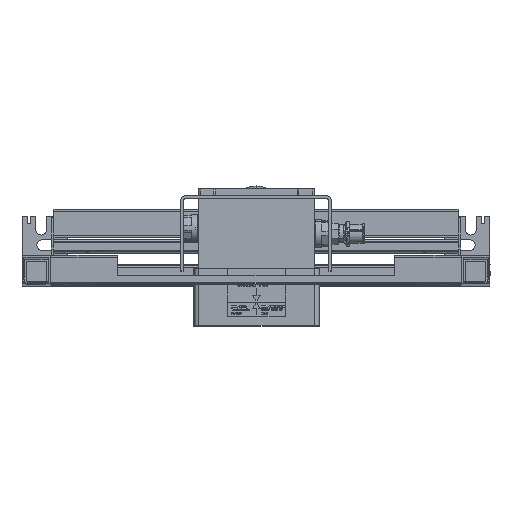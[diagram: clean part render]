
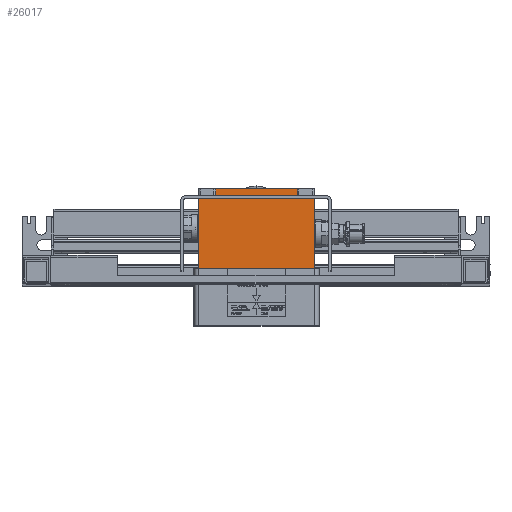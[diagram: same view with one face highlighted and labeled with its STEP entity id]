
A CAD part, top view. The second image highlights one B-rep face of the part: STEP entity #26017.
In plain terms, the highlighted free-form (B-spline) face has degree [1, 1] with [2, 2] control points.
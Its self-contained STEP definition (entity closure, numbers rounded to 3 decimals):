
#26017=ADVANCED_FACE('',(#69599),#69600,.T.);
#53133=VERTEX_POINT('',#97621);
#53139=VERTEX_POINT('',#97627);
#53141=EDGE_CURVE('',#53139,#53133,#97629,.T.);
#53195=VERTEX_POINT('',#97683);
#53205=VERTEX_POINT('',#97693);
#53209=EDGE_CURVE('',#53205,#53195,#97697,.T.);
#53211=VERTEX_POINT('',#97699);
#53213=VERTEX_POINT('',#97701);
#53215=EDGE_CURVE('',#53211,#53213,#97703,.T.);
#53217=EDGE_CURVE('',#53213,#53139,#97705,.T.);
#53219=EDGE_CURVE('',#53133,#53195,#97707,.T.);
#53221=VERTEX_POINT('',#97709);
#53223=EDGE_CURVE('',#53221,#53205,#97711,.T.);
#53225=VERTEX_POINT('',#97713);
#53227=EDGE_CURVE('',#53221,#53225,#97715,.T.);
#53229=EDGE_CURVE('',#53211,#53225,#97717,.T.);
#69599=FACE_OUTER_BOUND('',#131823,.T.);
#69600=B_SPLINE_SURFACE_WITH_KNOTS('',1,1,((#131824,#131825),(#131826,#131827)),.UNSPECIFIED.,.F.,.F.,.F.,(2,2),(2,2),(0.,1.),(0.,1.),.UNSPECIFIED.);
#97621=CARTESIAN_POINT('',(-60.,13.85,610.5));
#97627=CARTESIAN_POINT('',(-42.,13.85,610.5));
#97629=LINE('',#185763,#185764);
#97683=CARTESIAN_POINT('',(-60.,-62.65,610.5));
#97693=CARTESIAN_POINT('',(61.,-62.65,610.5));
#97697=LINE('',#185865,#185866);
#97699=CARTESIAN_POINT('',(43.,20.85,610.5));
#97701=CARTESIAN_POINT('',(-42.,20.85,610.5));
#97703=LINE('',#185873,#185874);
#97705=LINE('',#185877,#185878);
#97707=LINE('',#185881,#185882);
#97709=CARTESIAN_POINT('',(61.,13.85,610.5));
#97711=LINE('',#185887,#185888);
#97713=CARTESIAN_POINT('',(43.,13.85,610.5));
#97715=LINE('',#185893,#185894);
#97717=LINE('',#185897,#185898);
#131823=EDGE_LOOP('',(#216404,#216405,#216406,#216407,#216408,#216409,#216410,#216411));
#131824=CARTESIAN_POINT('',(61.001,20.851,610.5));
#131825=CARTESIAN_POINT('',(61.001,-62.651,610.5));
#131826=CARTESIAN_POINT('',(-60.001,20.851,610.5));
#131827=CARTESIAN_POINT('',(-60.001,-62.651,610.5));
#185763=CARTESIAN_POINT('',(-42.,13.85,610.5));
#185764=VECTOR('',#230327,1.0);
#185865=CARTESIAN_POINT('',(61.,-62.65,610.5));
#185866=VECTOR('',#230364,1.0);
#185873=CARTESIAN_POINT('',(43.,20.85,610.5));
#185874=VECTOR('',#230365,1.0);
#185877=CARTESIAN_POINT('',(-42.,20.85,610.5));
#185878=VECTOR('',#230366,1.0);
#185881=CARTESIAN_POINT('',(-60.,13.85,610.5));
#185882=VECTOR('',#230367,1.0);
#185887=CARTESIAN_POINT('',(61.,13.85,610.5));
#185888=VECTOR('',#230368,1.0);
#185893=CARTESIAN_POINT('',(61.,13.85,610.5));
#185894=VECTOR('',#230369,1.0);
#185897=CARTESIAN_POINT('',(43.,20.85,610.5));
#185898=VECTOR('',#230370,1.0);
#216404=ORIENTED_EDGE('',*,*,#53215,.T.);
#216405=ORIENTED_EDGE('',*,*,#53217,.T.);
#216406=ORIENTED_EDGE('',*,*,#53141,.T.);
#216407=ORIENTED_EDGE('',*,*,#53219,.T.);
#216408=ORIENTED_EDGE('',*,*,#53209,.F.);
#216409=ORIENTED_EDGE('',*,*,#53223,.F.);
#216410=ORIENTED_EDGE('',*,*,#53227,.T.);
#216411=ORIENTED_EDGE('',*,*,#53229,.F.);
#230327=DIRECTION('',(-1.0,0.,0.0));
#230364=DIRECTION('',(-1.0,0.,0.0));
#230365=DIRECTION('',(-1.0,0.,0.0));
#230366=DIRECTION('',(0.,-1.0,0.0));
#230367=DIRECTION('',(0.,-1.0,0.));
#230368=DIRECTION('',(0.,-1.0,0.));
#230369=DIRECTION('',(-1.0,0.,0.0));
#230370=DIRECTION('',(0.,-1.0,0.0));
